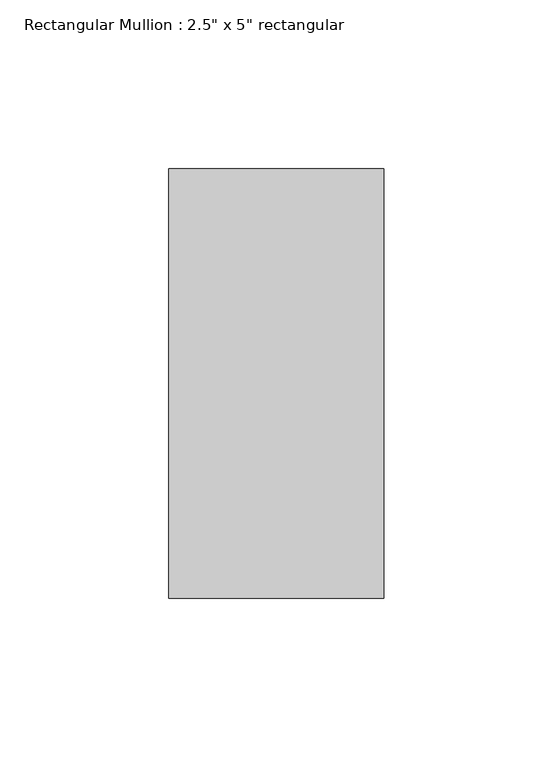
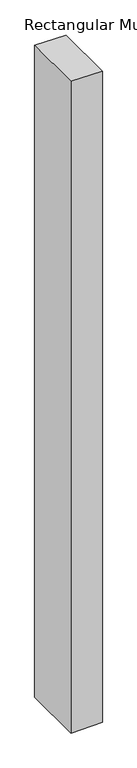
"""IFC4 building model written with IfcOpenShell, lengths in millimetres: member geometry."""

from ifc_helpers import new_model, si_unit, frame, origin, place, context, project, spatial, polyline, outline, extrude, source, transform, mapped, element, save


def member_697baf5a(model_context):
    return source(origin(), model_context, "Body", "SweptSolid", [
        extrude(outline(polyline([(0.0, 0.0), (1.0054302, -63.5), (-1392.255327, -63.5), (-1391.5615985, 0.0), (0.0, 0.0)])), frame((0.0, -63.5, 0.0), z_axis=(0.0, 1.0, 0.0), x_axis=(0.0, 0.0, 1.0)), (0.0, 0.0, 1.0), 127.0),
    ])


if __name__ == "__main__":
    model = new_model("IFC4")
    model_context = context("Model", 3, world=origin())
    ifc_project = project(units=[si_unit("LENGTHUNIT", "METRE", prefix="MILLI")], contexts=[model_context])
    site = spatial("IfcSite", under=ifc_project)
    building = spatial("IfcBuilding", under=site)
    placement = place(None, origin())
    member_shape = member_697baf5a(model_context)
    element("IfcMember", 1, ObjectType="Rectangular Mullion : 2.5\" x 5\" rectangular", at=placement, inside=building, context=model_context, shape_type="MappedRepresentation", body=[
        mapped(member_shape, transform((0.0, 0.0, 0.0), x_axis=(1.0, 0.0, 0.0), y_axis=(0.0, 1.0, 0.0), z_axis=(0.0, 0.0, 1.0))),
    ])
    save(model, "model.ifc")
